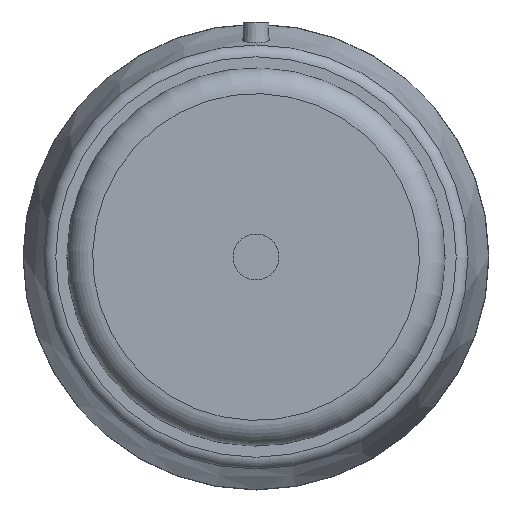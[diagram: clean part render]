
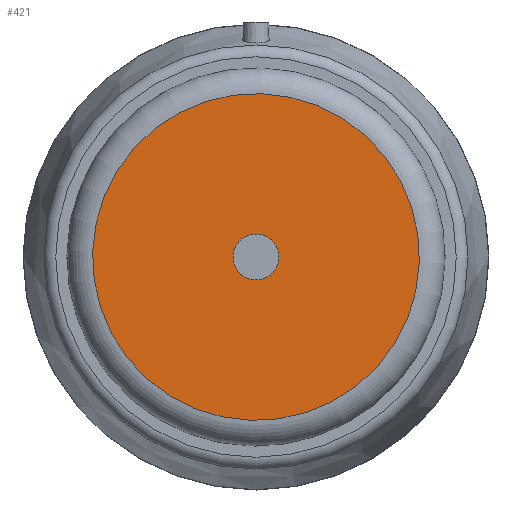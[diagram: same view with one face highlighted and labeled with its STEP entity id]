
A CAD part, left-side view. The second image highlights one B-rep face of the part: STEP entity #421.
In plain terms, the highlighted planar face has unit normal (-1, 0, 0).
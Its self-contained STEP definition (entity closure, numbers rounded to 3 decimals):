
#60=PLANE('',#511);
#87=CIRCLE('',#510,17.);
#88=CIRCLE('',#512,121.);
#152=ORIENTED_EDGE('',*,*,#196,.T.);
#153=ORIENTED_EDGE('',*,*,#195,.F.);
#195=EDGE_CURVE('',#231,#231,#87,.T.);
#196=EDGE_CURVE('',#232,#232,#88,.T.);
#231=VERTEX_POINT('',#820);
#232=VERTEX_POINT('',#823);
#300=EDGE_LOOP('',(#152));
#301=EDGE_LOOP('',(#153));
#372=FACE_BOUND('',#300,.T.);
#373=FACE_BOUND('',#301,.T.);
#421=ADVANCED_FACE('',(#372,#373),#60,.T.);
#510=AXIS2_PLACEMENT_3D('',#819,#639,#640);
#511=AXIS2_PLACEMENT_3D('',#821,#641,#642);
#512=AXIS2_PLACEMENT_3D('',#822,#643,#644);
#639=DIRECTION('',(-1.,0.,0.));
#640=DIRECTION('',(0.,0.,1.));
#641=DIRECTION('',(-1.,0.,0.));
#642=DIRECTION('',(0.,0.,1.));
#643=DIRECTION('',(-1.,0.,0.));
#644=DIRECTION('',(0.,0.,1.));
#819=CARTESIAN_POINT('',(-86.5,0.,0.));
#820=CARTESIAN_POINT('',(-86.5,0.,17.));
#821=CARTESIAN_POINT('',(-86.5,0.,121.));
#822=CARTESIAN_POINT('',(-86.5,0.,0.));
#823=CARTESIAN_POINT('',(-86.5,0.,121.));
